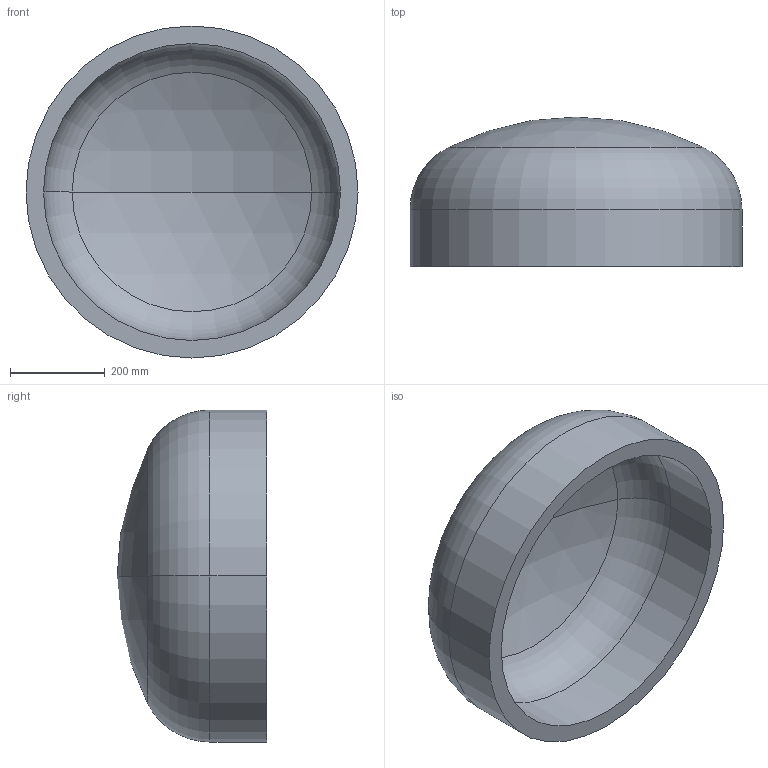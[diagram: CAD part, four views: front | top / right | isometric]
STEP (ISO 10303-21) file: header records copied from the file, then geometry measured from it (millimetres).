
FILE_DESCRIPTION (( 'STEP AP203' ), '1' );
FILE_NAME ('DIN 28013 Korbbogenform_-_Boden DIN 28013 - 700 x 120 - I - s=37.step', '2016-07-01T08:07:15', ( '' ), ( '' ), 'SwSTEP 2.0', 'SolidWorks 2013', '' );
FILE_SCHEMA (( 'CONFIG_CONTROL_DESIGN' ));
Length unit declared in the file: millimetre
Products named in the file (1): DIN 28013 Korbbogenform_-_Boden DIN 28013 - 700 x 120 - I - s=37
Bounding box: 700 x 315.39 x 700 mm (x, y, z)
Volume: 27754231.7 mm3; surface area: 1580162.1 mm2
Topology: 1 solids, 1 shells, 13 faces, 24 edges, 14 vertices
Faces by surface type: torus 4, cylinder 4, sphere 4, plane 1
Entity records: 407 total; most frequent: DIRECTION 72, CARTESIAN_POINT 52, ORIENTED_EDGE 48, AXIS2_PLACEMENT_3D 34, EDGE_CURVE 24, CIRCLE 20, VERTEX_POINT 14, EDGE_LOOP 14
